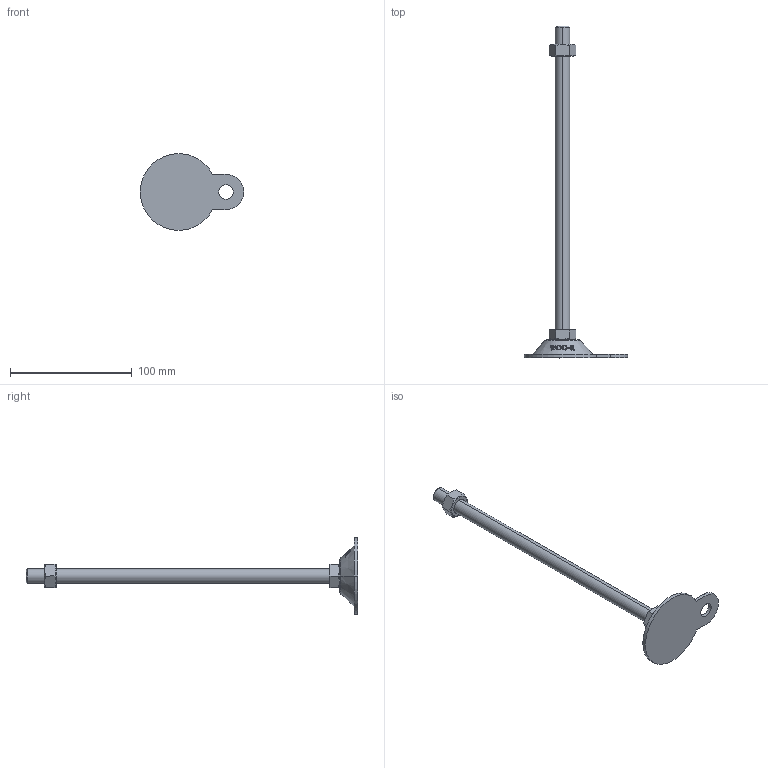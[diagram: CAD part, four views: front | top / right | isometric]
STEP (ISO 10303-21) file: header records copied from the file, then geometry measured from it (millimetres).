
FILE_DESCRIPTION (( 'STEP AP214' ), '1' );
FILE_NAME ('ABL63-M12-250.step', '2021-02-05T04:19:15', ( '' ), ( '' ), 'SwSTEP 2.0', 'SolidWorks 2019', '' );
FILE_SCHEMA (( 'AUTOMOTIVE_DESIGN' ));
Length unit declared in the file: millimetre
Products named in the file (2): ABL63-M12-250
Bounding box: 85 x 273 x 62.83 mm (x, y, z)
Volume: 58098.4 mm3; surface area: 20083.8 mm2
Topology: 2 solids, 2 shells, 128 faces, 325 edges, 212 vertices
Faces by surface type: plane 48, cylinder 38, cone 22, bspline 18, torus 2
Entity records: 5459 total; most frequent: CARTESIAN_POINT 2573, ORIENTED_EDGE 650, DIRECTION 473, EDGE_CURVE 325, VERTEX_POINT 212, AXIS2_PLACEMENT_3D 176, EDGE_LOOP 143, B_SPLINE_CURVE_WITH_KNOTS 140
